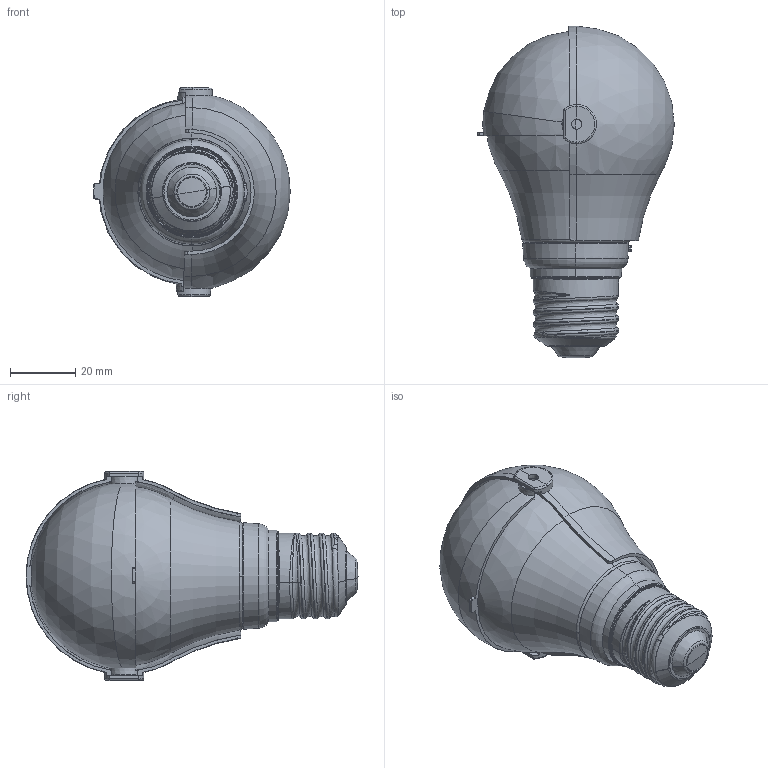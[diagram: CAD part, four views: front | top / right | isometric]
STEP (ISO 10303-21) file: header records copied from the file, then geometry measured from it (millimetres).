
FILE_DESCRIPTION(('FreeCAD Model'),'2;1');
FILE_NAME('Open CASCADE Shape Model','2024-08-30T10:09:24',( 'Lukas Balthasar Pank'),('Astera LED Technology GmbH'), 'Open CASCADE STEP processor 7.6','FreeCAD','Unknown');
FILE_SCHEMA(('AUTOMOTIVE_DESIGN { 1 0 10303 214 1 1 1 1 }'));
Length unit declared in the file: millimetre
Products named in the file (15): FP7+FP7-LSBL_LunaBulb+LunaShade with Blocker_3D-STEP; LunaBulb; Lamp cup-L; inner diffuser holder; release button; spring; LunaBulb_InnerDome; LunaShade_Body; LunaBulb_E27; LunaShade; LunasShade Diffusion
Assembly tree (16 placements, depth 4):
  FP7+FP7-LSBL_LunaBulb+LunaShade with Blocker_3D-STEP
    LunaBulb
      Lamp cup-L
      inner diffuser holder
      release button
      spring
        spring
        spring
      spring
        spring
        spring
    LunaBulb_InnerDome
    LunaShade_Body
    LunaBulb_E27
    LunaShade
      LunasShade Diffusion
      LunaShade_Body
Bounding box: 60.13 x 101.6 x 64 mm (x, y, z)
Volume: 29352.7 mm3; surface area: 59855 mm2
Topology: 8 solids, 12 shells, 4747 faces, 12951 edges, 8586 vertices
Faces by surface type: bspline 2523, plane 1204, cylinder 845, cone 76, torus 67, sphere 28, revolution 4
Entity records: 207332 total; most frequent: CARTESIAN_POINT 108887, ORIENTED_EDGE 25850, EDGE_CURVE 12927, DIRECTION 10861, VERTEX_POINT 8578, B_SPLINE_CURVE_WITH_KNOTS 8514, FACE_BOUND 5127, EDGE_LOOP 5127
